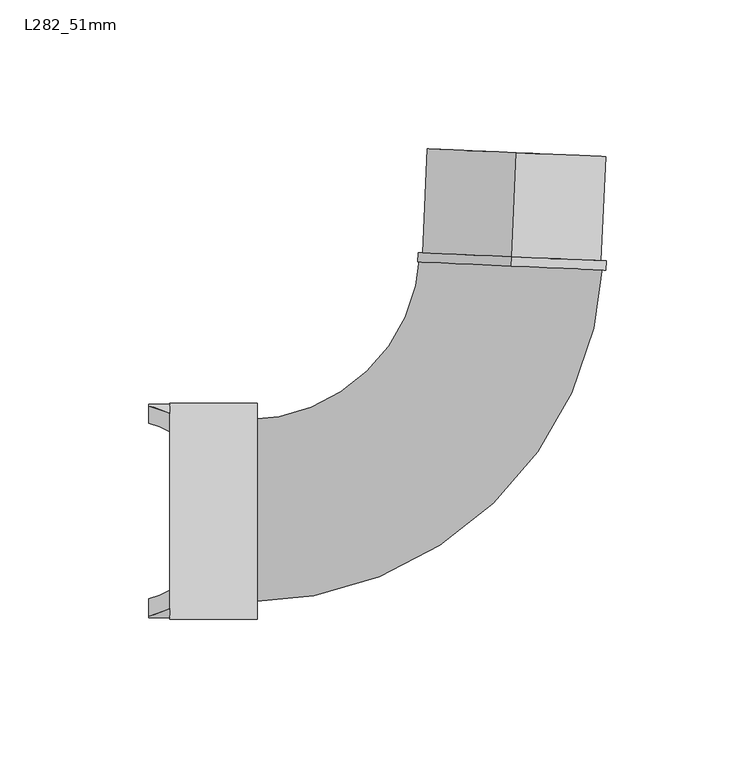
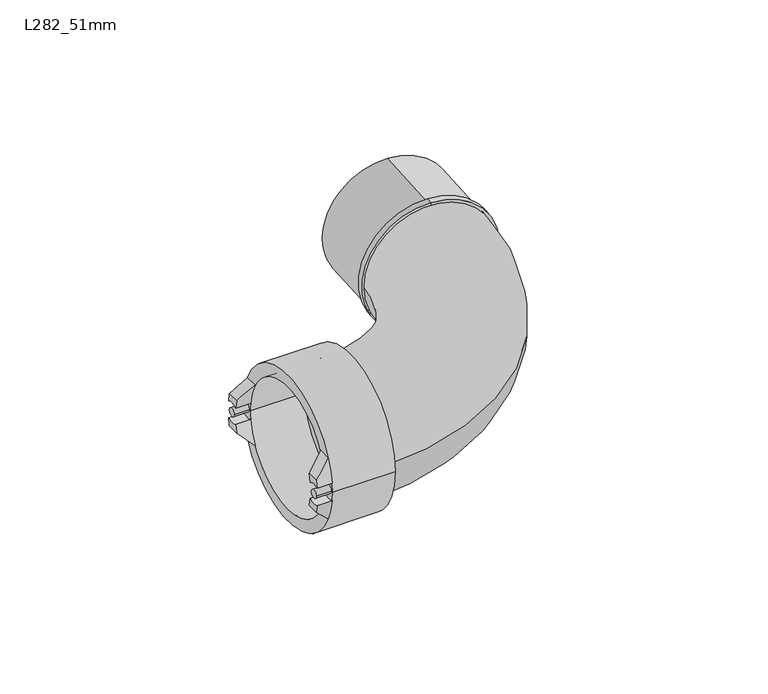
"""IFC4 building model written with IfcOpenShell, lengths in millimetres: pipe fitting geometry, Durapipe_PipeFitting_VulcatheneEnfusion_SingleSocketLongSweepBend_L28 : L282_51mm."""

from ifc_helpers import new_model, si_unit, point, frame, frame_2d, origin, place, context, project, spatial, polyline, circle_curve, ellipse_curve, trimmed, segment, composite_curve, outline, extrude, source, transform, mapped, element, save
from ifc_brep_helpers import plane_surface, cylinder_surface, revolved_surface, advanced_brep


def l282_51mm_e2ee95dc(model_context):
    return source(origin(), model_context, "Body", "SolidModel", [
        advanced_brep(
        [(-118.1861526, 30.2927286, -3.9563988), (-118.1861526, 35.8927286, -4.3051749), (-118.1861526, 35.2672497, -7.94), (-118.1861526, 29.5001508, -7.94), (-111.0861526, 32.8910702, -15.0), (-111.0861526, 35.8927286, -4.3051749), (-111.0861526, 30.2927286, -3.9563988), (-111.0861526, 26.6139531, -15.0)],
        [
            (0, 1, circle_curve(frame((-118.1861526, 33.35, 0.0), z_axis=(1.0, 0.0, 0.0), x_axis=(0.0, -1.0, 0.0)), 5.0)),
            (1, 2, circle_curve(frame((-118.1861526, 0.0, 0.0), z_axis=(-1.0, 0.0, 0.0), x_axis=(0.0, -1.0, 0.0)), 36.15)),
            (2, 3),
            (3, 0, circle_curve(frame((-118.1861526, 0.0, 0.0), z_axis=(1.0, 0.0, 0.0), x_axis=(0.0, -1.0, 0.0)), 30.55)),
            (4, 5, circle_curve(frame((-111.0861526, 0.0, 0.0), z_axis=(1.0, 0.0, 0.0), x_axis=(0.0, -1.0, 0.0)), 36.15)),
            (5, 6, circle_curve(frame((-111.0861526, 33.35, 0.0), z_axis=(-1.0, 0.0, 0.0), x_axis=(0.0, -1.0, 0.0)), 5.0)),
            (6, 7, circle_curve(frame((-111.0861526, 0.0, 0.0), z_axis=(-1.0, 0.0, 0.0), x_axis=(0.0, -1.0, 0.0)), 30.55)),
            (7, 4),
            (6, 0),
            (3, 7, ellipse_curve(frame((-126.1711384, 0.0, 0.0), z_axis=(-0.7051064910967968, 0.0, -0.7091014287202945), x_axis=(0.7091014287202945, 0.0, -0.7051064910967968)), 43.3267888, 30.55)),
            (4, 2, ellipse_curve(frame((-126.1711384, 0.0, 0.0), z_axis=(0.7051064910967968, 0.0, 0.7091014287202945), x_axis=(-0.7091014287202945, 0.0, 0.7051064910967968)), 51.2688515, 36.15)),
            (1, 5),
        ],
        [
            plane_surface(frame((-118.1861526, 32.8910702, -15.0), z_axis=(-1.0, 0.0, 0.0), x_axis=(0.0, -1.0, 0.0))),
            plane_surface(frame((-111.0861526, 32.8910702, -15.0), z_axis=(1.0, 0.0, 0.0), x_axis=(0.0, 1.0, 0.0))),
            revolved_surface(polyline([(-95.44805056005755, -30.55, 0.0), (-156.89422623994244, -30.55, 0.0)]), (-111.0861526, 0.0, 0.0), (1.0, 0.0, 0.0)),
            cylinder_surface(frame((-111.0861526, 0.0, 0.0), z_axis=(-1.0, 0.0, 0.0), x_axis=(0.0, -1.0, 0.0)), 36.15),
            revolved_surface(polyline([(-118.1861526, 28.35, 0.0), (-111.0861526, 28.35, 0.0)]), (-111.0861526, 33.35, 0.0), (-1.0, 0.0, 0.0)),
            plane_surface(frame((-111.0861526, -104.876707, -15.0), z_axis=(-0.7051064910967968, 0.0, -0.7091014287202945), x_axis=(0.0, 1.0, 0.0))),
        ],
        [
            (0, [[1, 2, 3, 4]]),
            (1, [[5, 6, 7, 8]]),
            (2, [[-7, 9, -4, 10]]),
            (3, [[-5, 11, -2, 12]]),
            (4, [[-1, -9, -6, -12]]),
            (5, [[-3, -11, -8, -10]]),
        ],
    ),
        advanced_brep(
        [(-118.1861526, 35.8927286, 4.3051749), (-118.1861526, 30.2927286, 3.9563988), (-118.1861526, 29.5001508, 7.94), (-118.1861526, 35.2672497, 7.94), (-111.0861526, 35.8927286, 4.3051749), (-111.0861526, 32.8910702, 15.0), (-111.0861526, 26.6139531, 15.0), (-111.0861526, 30.2927286, 3.9563988)],
        [
            (0, 1, circle_curve(frame((-118.1861526, 33.35, 0.0), z_axis=(1.0, 0.0, 0.0), x_axis=(0.0, -1.0, 0.0)), 5.0)),
            (1, 2, circle_curve(frame((-118.1861526, 0.0, 0.0), z_axis=(1.0, 0.0, 0.0), x_axis=(0.0, -1.0, 0.0)), 30.55)),
            (2, 3),
            (3, 0, circle_curve(frame((-118.1861526, 0.0, 0.0), z_axis=(-1.0, 0.0, 0.0), x_axis=(0.0, -1.0, 0.0)), 36.15)),
            (4, 5, circle_curve(frame((-111.0861526, 0.0, 0.0), z_axis=(1.0, 0.0, 0.0), x_axis=(0.0, -1.0, 0.0)), 36.15)),
            (5, 6),
            (6, 7, circle_curve(frame((-111.0861526, 0.0, 0.0), z_axis=(-1.0, 0.0, 0.0), x_axis=(0.0, -1.0, 0.0)), 30.55)),
            (7, 4, circle_curve(frame((-111.0861526, 33.35, 0.0), z_axis=(-1.0, 0.0, 0.0), x_axis=(0.0, -1.0, 0.0)), 5.0)),
            (6, 2, ellipse_curve(frame((-126.1711384, 0.0, 0.0), z_axis=(-0.7051064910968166, 0.0, 0.7091014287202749), x_axis=(0.7091014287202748, 0.0, 0.7051064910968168)), 43.3267888, 30.55)),
            (1, 7),
            (4, 0),
            (3, 5, ellipse_curve(frame((-126.1711384, 0.0, 0.0), z_axis=(0.7051064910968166, 0.0, -0.7091014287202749), x_axis=(-0.7091014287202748, 0.0, -0.7051064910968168)), 51.2688515, 36.15)),
        ],
        [
            plane_surface(frame((-118.1861526, 32.8910702, -15.0), z_axis=(-1.0, 0.0, 0.0), x_axis=(0.0, -1.0, 0.0))),
            plane_surface(frame((-111.0861526, 32.8910702, -15.0), z_axis=(1.0, 0.0, 0.0), x_axis=(0.0, 1.0, 0.0))),
            revolved_surface(polyline([(-95.4480505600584, -30.55, 0.0), (-156.8942262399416, -30.55, 0.0)]), (-111.0861526, 0.0, 0.0), (1.0, 0.0, 0.0)),
            cylinder_surface(frame((-111.0861526, 0.0, 0.0), z_axis=(-1.0, 0.0, 0.0), x_axis=(0.0, -1.0, 0.0)), 36.15),
            revolved_surface(polyline([(-118.1861526, 28.35, 0.0), (-111.0861526, 28.35, 0.0)]), (-111.0861526, 33.35, 0.0), (-1.0, 0.0, 0.0)),
            plane_surface(frame((-118.1861526, -104.876707, 7.94), z_axis=(-0.7051064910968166, 0.0, 0.7091014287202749), x_axis=(0.0, 1.0, 0.0))),
        ],
        [
            (0, [[1, 2, 3, 4]]),
            (1, [[5, 6, 7, 8]]),
            (2, [[-7, 9, -2, 10]]),
            (3, [[-5, 11, -4, 12]]),
            (4, [[-1, -11, -8, -10]]),
            (5, [[-3, -9, -6, -12]]),
        ],
    ),
        advanced_brep(
        [(-118.1861526, -35.8927286, -4.3051749), (-118.1861526, -30.2927286, -3.9563988), (-118.1861526, -29.5001508, -7.94), (-118.1861526, -35.2672497, -7.94), (-111.0861526, -35.8927286, -4.3051749), (-111.0861526, -32.8910702, -15.0), (-111.0861526, -26.6139531, -15.0), (-111.0861526, -30.2927286, -3.9563988)],
        [
            (0, 1, circle_curve(frame((-118.1861526, -33.35, 0.0), z_axis=(1.0, 0.0, 0.0), x_axis=(0.0, -1.0, 0.0)), 5.0)),
            (1, 2, circle_curve(frame((-118.1861526, 0.0, 0.0), z_axis=(1.0, 0.0, 0.0), x_axis=(0.0, -1.0, 0.0)), 30.55)),
            (2, 3),
            (3, 0, circle_curve(frame((-118.1861526, 0.0, 0.0), z_axis=(-1.0, 0.0, 0.0), x_axis=(0.0, -1.0, 0.0)), 36.15)),
            (4, 5, circle_curve(frame((-111.0861526, 0.0, 0.0), z_axis=(1.0, 0.0, 0.0), x_axis=(0.0, -1.0, 0.0)), 36.15)),
            (5, 6),
            (6, 7, circle_curve(frame((-111.0861526, 0.0, 0.0), z_axis=(-1.0, 0.0, 0.0), x_axis=(0.0, -1.0, 0.0)), 30.55)),
            (7, 4, circle_curve(frame((-111.0861526, -33.35, 0.0), z_axis=(-1.0, 0.0, 0.0), x_axis=(0.0, -1.0, 0.0)), 5.0)),
            (6, 2, ellipse_curve(frame((-126.1711384, 0.0, 0.0), z_axis=(-0.7051064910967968, 0.0, -0.7091014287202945), x_axis=(0.7091014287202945, 0.0, -0.7051064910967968)), 43.3267888, 30.55)),
            (1, 7),
            (4, 0),
            (3, 5, ellipse_curve(frame((-126.1711384, 0.0, 0.0), z_axis=(0.7051064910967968, 0.0, 0.7091014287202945), x_axis=(-0.7091014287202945, 0.0, 0.7051064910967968)), 51.2688515, 36.15)),
        ],
        [
            plane_surface(frame((-118.1861526, 32.8910702, -15.0), z_axis=(-1.0, 0.0, 0.0), x_axis=(0.0, -1.0, 0.0))),
            plane_surface(frame((-111.0861526, 32.8910702, -15.0), z_axis=(1.0, 0.0, 0.0), x_axis=(0.0, 1.0, 0.0))),
            revolved_surface(polyline([(-95.44805056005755, -30.55, 0.0), (-156.89422623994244, -30.55, 0.0)]), (-111.0861526, 0.0, 0.0), (1.0, 0.0, 0.0)),
            cylinder_surface(frame((-111.0861526, 0.0, 0.0), z_axis=(-1.0, 0.0, 0.0), x_axis=(0.0, -1.0, 0.0)), 36.15),
            revolved_surface(polyline([(-118.1861526, -38.35, 0.0), (-111.0861526, -38.35, 0.0)]), (-111.0861526, -33.35, 0.0), (-1.0, 0.0, 0.0)),
            plane_surface(frame((-111.0861526, -104.876707, -15.0), z_axis=(-0.7051064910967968, 0.0, -0.7091014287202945), x_axis=(0.0, 1.0, 0.0))),
        ],
        [
            (0, [[1, 2, 3, 4]]),
            (1, [[5, 6, 7, 8]]),
            (2, [[-7, 9, -2, 10]]),
            (3, [[-5, 11, -4, 12]]),
            (4, [[-1, -11, -8, -10]]),
            (5, [[-3, -9, -6, -12]]),
        ],
    ),
        advanced_brep(
        [(-118.1861526, -30.2927286, 3.9563988), (-118.1861526, -35.8927286, 4.3051749), (-118.1861526, -35.2672497, 7.94), (-118.1861526, -29.5001508, 7.94), (-111.0861526, -32.8910702, 15.0), (-111.0861526, -35.8927286, 4.3051749), (-111.0861526, -30.2927286, 3.9563988), (-111.0861526, -26.6139531, 15.0)],
        [
            (0, 1, circle_curve(frame((-118.1861526, -33.35, 0.0), z_axis=(1.0, 0.0, 0.0), x_axis=(0.0, -1.0, 0.0)), 5.0)),
            (1, 2, circle_curve(frame((-118.1861526, 0.0, 0.0), z_axis=(-1.0, 0.0, 0.0), x_axis=(0.0, -1.0, 0.0)), 36.15)),
            (2, 3),
            (3, 0, circle_curve(frame((-118.1861526, 0.0, 0.0), z_axis=(1.0, 0.0, 0.0), x_axis=(0.0, -1.0, 0.0)), 30.55)),
            (4, 5, circle_curve(frame((-111.0861526, 0.0, 0.0), z_axis=(1.0, 0.0, 0.0), x_axis=(0.0, -1.0, 0.0)), 36.15)),
            (5, 6, circle_curve(frame((-111.0861526, -33.35, 0.0), z_axis=(-1.0, 0.0, 0.0), x_axis=(0.0, -1.0, 0.0)), 5.0)),
            (6, 7, circle_curve(frame((-111.0861526, 0.0, 0.0), z_axis=(-1.0, 0.0, 0.0), x_axis=(0.0, -1.0, 0.0)), 30.55)),
            (7, 4),
            (6, 0),
            (3, 7, ellipse_curve(frame((-126.1711384, 0.0, 0.0), z_axis=(-0.7051064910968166, 0.0, 0.7091014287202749), x_axis=(0.7091014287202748, 0.0, 0.7051064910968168)), 43.3267888, 30.55)),
            (4, 2, ellipse_curve(frame((-126.1711384, 0.0, 0.0), z_axis=(0.7051064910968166, 0.0, -0.7091014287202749), x_axis=(-0.7091014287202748, 0.0, -0.7051064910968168)), 51.2688515, 36.15)),
            (1, 5),
        ],
        [
            plane_surface(frame((-118.1861526, 32.8910702, -15.0), z_axis=(-1.0, 0.0, 0.0), x_axis=(0.0, -1.0, 0.0))),
            plane_surface(frame((-111.0861526, 32.8910702, -15.0), z_axis=(1.0, 0.0, 0.0), x_axis=(0.0, 1.0, 0.0))),
            revolved_surface(polyline([(-95.4480505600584, -30.55, 0.0), (-156.8942262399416, -30.55, 0.0)]), (-111.0861526, 0.0, 0.0), (1.0, 0.0, 0.0)),
            cylinder_surface(frame((-111.0861526, 0.0, 0.0), z_axis=(-1.0, 0.0, 0.0), x_axis=(0.0, -1.0, 0.0)), 36.15),
            revolved_surface(polyline([(-118.1861526, -38.35, 0.0), (-111.0861526, -38.35, 0.0)]), (-111.0861526, -33.35, 0.0), (-1.0, 0.0, 0.0)),
            plane_surface(frame((-118.1861526, -104.876707, 7.94), z_axis=(-0.7051064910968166, 0.0, 0.7091014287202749), x_axis=(0.0, 1.0, 0.0))),
        ],
        [
            (0, [[1, 2, 3, 4]]),
            (1, [[5, 6, 7, 8]]),
            (2, [[-7, 9, -4, 10]]),
            (3, [[-5, 11, -2, 12]]),
            (4, [[-1, -9, -6, -12]]),
            (5, [[-3, -11, -8, -10]]),
        ],
    ),
        extrude(outline(composite_curve([segment(trimmed(circle_curve(frame_2d((33.35, 0.0)), 2.0), [point((35.35, 0.0))], [point((31.35, 0.0))], False, "CARTESIAN"), True, "CONTINUOUS"), segment(trimmed(circle_curve(frame_2d((33.35, 0.0)), 2.0), [point((31.35, 0.0))], [point((35.35, 0.0))], False, "CARTESIAN"), True, "CONTINUOUS")], self_intersect=False)), frame((-118.1861526, 0.0, 0.0), z_axis=(1.0, 0.0, 0.0), x_axis=(0.0, 1.0, 0.0)), (0.0, 0.0, 1.0), 7.1),
        extrude(outline(composite_curve([segment(trimmed(circle_curve(frame_2d((-33.35, 0.0)), 2.0), [point((-31.35, 0.0))], [point((-35.35, 0.0))], False, "CARTESIAN"), True, "CONTINUOUS"), segment(trimmed(circle_curve(frame_2d((-33.35, 0.0)), 2.0), [point((-35.35, 0.0))], [point((-31.35, 0.0))], False, "CARTESIAN"), True, "CONTINUOUS")], self_intersect=False)), frame((-118.1861526, 0.0, 0.0), z_axis=(1.0, 0.0, 0.0), x_axis=(0.0, 1.0, 0.0)), (0.0, 0.0, 1.0), 7.1),
        advanced_brep(
        [(3.5936335, 82.3077392, -31.7), (3.5936335, 82.3077392, 31.7), (3.5936335, 82.3077392, 26.7), (3.5936335, 82.3077392, -26.7), (3.7288536, 85.4047887, -31.7), (3.7288536, 85.4047887, 31.7), (3.7288536, 85.4047887, -30.0), (3.7288536, 85.4047887, 30.0), (5.2555322, 120.3714765, -30.0), (5.2555322, 120.3714765, 30.0), (5.2555322, 120.3714765, -26.7), (5.2555322, 120.3714765, 26.7)],
        [
            (0, 1, circle_curve(frame((3.5936335, 82.3077392, 0.0), z_axis=(-0.04361938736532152, -0.9990482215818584, 0.0), x_axis=(0.0, 0.0, 1.0)), 31.7)),
            (1, 2),
            (2, 3, circle_curve(frame((3.5936335, 82.3077392, 0.0), z_axis=(0.04361938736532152, 0.9990482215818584, 0.0), x_axis=(0.0, 0.0, 1.0)), 26.7)),
            (3, 0),
            (1, 0, circle_curve(frame((3.5936335, 82.3077392, 0.0), z_axis=(-0.04361938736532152, -0.9990482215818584, 0.0), x_axis=(0.0, 0.0, 1.0)), 31.7)),
            (3, 2, circle_curve(frame((3.5936335, 82.3077392, 0.0), z_axis=(0.04361938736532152, 0.9990482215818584, 0.0), x_axis=(0.0, 0.0, 1.0)), 26.7)),
            (4, 5, circle_curve(frame((3.7288536, 85.4047887, 0.0), z_axis=(-0.04361938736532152, -0.9990482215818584, 0.0), x_axis=(0.0, 0.0, 1.0)), 31.7)),
            (5, 1),
            (0, 4),
            (5, 4, circle_curve(frame((3.7288536, 85.4047887, 0.0), z_axis=(-0.04361938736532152, -0.9990482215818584, 0.0), x_axis=(0.0, 0.0, 1.0)), 31.7)),
            (6, 7, circle_curve(frame((3.7288536, 85.4047887, 0.0), z_axis=(-0.04361938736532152, -0.9990482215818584, 0.0), x_axis=(0.0, 0.0, 1.0)), 30.0)),
            (7, 5),
            (4, 6),
            (7, 6, circle_curve(frame((3.7288536, 85.4047887, 0.0), z_axis=(-0.04361938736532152, -0.9990482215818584, 0.0), x_axis=(0.0, 0.0, 1.0)), 30.0)),
            (8, 9, circle_curve(frame((5.2555322, 120.3714765, 0.0), z_axis=(-0.04361938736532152, -0.9990482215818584, 0.0), x_axis=(0.0, 0.0, 1.0)), 30.0)),
            (9, 7),
            (6, 8),
            (9, 8, circle_curve(frame((5.2555322, 120.3714765, 0.0), z_axis=(-0.04361938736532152, -0.9990482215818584, 0.0), x_axis=(0.0, 0.0, 1.0)), 30.0)),
            (10, 11, circle_curve(frame((5.2555322, 120.3714765, 0.0), z_axis=(-0.04361938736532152, -0.9990482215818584, 0.0), x_axis=(0.0, 0.0, 1.0)), 26.7)),
            (11, 9),
            (8, 10),
            (11, 10, circle_curve(frame((5.2555322, 120.3714765, 0.0), z_axis=(-0.04361938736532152, -0.9990482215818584, 0.0), x_axis=(0.0, 0.0, 1.0)), 26.7)),
            (2, 11),
            (10, 3),
        ],
        [
            plane_surface(frame((3.5936335, 82.3077392, 0.0), z_axis=(-0.04361938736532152, -0.9990482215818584, 0.0), x_axis=(0.0, 0.0, 1.0))),
            cylinder_surface(frame((116.4438849, 2667.0034392, 0.0), z_axis=(0.04361938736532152, 0.9990482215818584, 0.0), x_axis=(0.0, 0.0, 1.0)), 31.7),
            plane_surface(frame((3.7288536, 85.4047887, 0.0), z_axis=(0.04361938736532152, 0.9990482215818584, 0.0), x_axis=(0.0, 0.0, 1.0))),
            cylinder_surface(frame((116.4438849, 2667.0034392, 0.0), z_axis=(0.04361938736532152, 0.9990482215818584, 0.0), x_axis=(0.0, 0.0, 1.0)), 30.0),
            plane_surface(frame((5.2555322, 120.3714765, 0.0), z_axis=(0.04361938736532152, 0.9990482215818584, 0.0), x_axis=(0.0, 0.0, 1.0))),
            revolved_surface(polyline([(5.255532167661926, 120.37147650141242, 26.7), (3.59363350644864, 82.30773919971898, 26.7)]), (116.4438849, 2667.0034392, 0.0), (0.04361938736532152, 0.9990482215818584, 0.0)),
        ],
        [
            (0, [[1, 2, 3, 4]]),
            (0, [[5, -4, 6, -2]]),
            (1, [[7, 8, -1, 9]]),
            (1, [[10, -9, -5, -8]]),
            (2, [[11, 12, -7, 13]]),
            (2, [[14, -13, -10, -12]]),
            (3, [[15, 16, -11, 17]]),
            (3, [[18, -17, -14, -16]]),
            (4, [[19, 20, -15, 21]]),
            (4, [[22, -21, -18, -20]]),
            (5, [[-3, 23, -19, 24]]),
            (5, [[-6, -24, -22, -23]]),
        ],
    ),
        advanced_brep(
        [(-81.6861526, 36.3, 0.0), (-81.6861526, -36.3, 0.0), (-111.0861526, -36.3, 0.0), (-111.0861526, 36.3, 0.0), (-81.6861526, 26.7, 0.0), (-81.6861526, -26.7, 0.0), (-85.4861526, 26.7, 0.0), (-85.4861526, -26.7, 0.0), (-85.4861526, 30.4, 0.0), (-85.4861526, -30.4, 0.0), (-111.0861526, 30.4, 0.0), (-111.0861526, -30.4, 0.0)],
        [
            (0, 1, circle_curve(frame((-81.6861526, 0.0, 0.0), z_axis=(-1.0, 0.0, 0.0), x_axis=(0.0, -1.0, 0.0)), 36.3)),
            (1, 2),
            (2, 3, circle_curve(frame((-111.0861526, 0.0, 0.0), z_axis=(1.0, 0.0, 0.0), x_axis=(0.0, -1.0, 0.0)), 36.3)),
            (3, 0),
            (1, 0, circle_curve(frame((-81.6861526, 0.0, 0.0), z_axis=(-1.0, 0.0, 0.0), x_axis=(0.0, -1.0, 0.0)), 36.3)),
            (3, 2, circle_curve(frame((-111.0861526, 0.0, 0.0), z_axis=(1.0, 0.0, 0.0), x_axis=(0.0, -1.0, 0.0)), 36.3)),
            (4, 5, circle_curve(frame((-81.6861526, 0.0, 0.0), z_axis=(-1.0, 0.0, 0.0), x_axis=(0.0, -1.0, 0.0)), 26.7)),
            (5, 1),
            (0, 4),
            (5, 4, circle_curve(frame((-81.6861526, 0.0, 0.0), z_axis=(-1.0, 0.0, 0.0), x_axis=(0.0, -1.0, 0.0)), 26.7)),
            (6, 7, circle_curve(frame((-85.4861526, 0.0, 0.0), z_axis=(-1.0, 0.0, 0.0), x_axis=(0.0, -1.0, 0.0)), 26.7)),
            (7, 5),
            (4, 6),
            (7, 6, circle_curve(frame((-85.4861526, 0.0, 0.0), z_axis=(-1.0, 0.0, 0.0), x_axis=(0.0, -1.0, 0.0)), 26.7)),
            (8, 9, circle_curve(frame((-85.4861526, 0.0, 0.0), z_axis=(-1.0, 0.0, 0.0), x_axis=(0.0, -1.0, 0.0)), 30.4)),
            (9, 7),
            (6, 8),
            (9, 8, circle_curve(frame((-85.4861526, 0.0, 0.0), z_axis=(-1.0, 0.0, 0.0), x_axis=(0.0, -1.0, 0.0)), 30.4)),
            (10, 11, circle_curve(frame((-111.0861526, 0.0, 0.0), z_axis=(-1.0, 0.0, 0.0), x_axis=(0.0, -1.0, 0.0)), 30.4)),
            (11, 9),
            (8, 10),
            (11, 10, circle_curve(frame((-111.0861526, 0.0, 0.0), z_axis=(-1.0, 0.0, 0.0), x_axis=(0.0, -1.0, 0.0)), 30.4)),
            (2, 11),
            (10, 3),
        ],
        [
            cylinder_surface(frame((1571.2518184, 0.0, 0.0), z_axis=(1.0, 0.0, 0.0), x_axis=(0.0, -1.0, 0.0)), 36.3),
            plane_surface(frame((-81.6861526, 0.0, 0.0), z_axis=(1.0, 0.0, 0.0), x_axis=(0.0, -1.0, 0.0))),
            revolved_surface(polyline([(-81.68615260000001, -26.7, 0.0), (-85.48615259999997, -26.7, 0.0)]), (1571.2518184, 0.0, 0.0), (1.0, 0.0, 0.0)),
            plane_surface(frame((-85.4861526, 0.0, 0.0), z_axis=(-1.0, 0.0, 0.0), x_axis=(0.0, -1.0, 0.0))),
            revolved_surface(polyline([(-85.48615259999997, -30.4, 0.0), (-111.0861526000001, -30.4, 0.0)]), (1571.2518184, 0.0, 0.0), (1.0, 0.0, 0.0)),
            plane_surface(frame((-111.0861526, 0.0, 0.0), z_axis=(-1.0, 0.0, 0.0), x_axis=(0.0, -1.0, 0.0))),
        ],
        [
            (0, [[1, 2, 3, 4]]),
            (0, [[5, -4, 6, -2]]),
            (1, [[7, 8, -1, 9]]),
            (1, [[10, -9, -5, -8]]),
            (2, [[11, 12, -7, 13]]),
            (2, [[14, -13, -10, -12]]),
            (3, [[15, 16, -11, 17]]),
            (3, [[18, -17, -14, -16]]),
            (4, [[19, 20, -15, 21]]),
            (4, [[22, -21, -18, -20]]),
            (5, [[-3, 23, -19, 24]]),
            (5, [[-6, -24, -22, -23]]),
        ],
    ),
        advanced_brep(
        [(-85.4861526, -30.7, 0.0), (-85.4861526, 30.7, 0.0), (-85.4861526, -26.7, 0.0), (-85.4861526, 26.7, 0.0), (34.399634, 84.0656735, 0.0), (-26.9419268, 86.7439039, 0.0), (30.4034411, 84.2401511, 0.0), (-22.9457339, 86.5694264, 0.0)],
        [
            (0, 1, circle_curve(frame((-85.4861526, 0.0, 0.0), z_axis=(-1.0, 0.0, 0.0), x_axis=(0.0, 1.0, 0.0)), 30.7)),
            (1, 0, circle_curve(frame((-85.4861526, 0.0, 0.0), z_axis=(-1.0, 0.0, 0.0), x_axis=(0.0, 1.0, 0.0)), 30.7)),
            (2, 3, circle_curve(frame((-85.4861526, 0.0, 0.0), z_axis=(1.0, 0.0, 0.0), x_axis=(0.0, 1.0, 0.0)), 26.7)),
            (3, 2, circle_curve(frame((-85.4861526, 0.0, 0.0), z_axis=(1.0, 0.0, 0.0), x_axis=(0.0, 1.0, 0.0)), 26.7)),
            (4, 5, circle_curve(frame((3.7288536, 85.4047887, 0.0), z_axis=(0.043619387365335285, 0.9990482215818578, 0.0), x_axis=(-0.9990482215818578, 0.043619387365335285, 0.0)), 30.7)),
            (5, 4, circle_curve(frame((3.7288536, 85.4047887, 0.0), z_axis=(0.043619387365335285, 0.9990482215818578, 0.0), x_axis=(-0.9990482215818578, 0.043619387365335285, 0.0)), 30.7)),
            (6, 7, circle_curve(frame((3.7288536, 85.4047887, 0.0), z_axis=(-0.043619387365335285, -0.9990482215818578, 0.0), x_axis=(-0.9990482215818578, 0.043619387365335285, 0.0)), 26.7)),
            (7, 6, circle_curve(frame((3.7288536, 85.4047887, 0.0), z_axis=(-0.043619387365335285, -0.9990482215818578, 0.0), x_axis=(-0.9990482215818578, 0.043619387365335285, 0.0)), 26.7)),
            (7, 3, circle_curve(frame((-85.4861526, 89.3, 0.0), z_axis=(0.0, 0.0, -1.0), x_axis=(0.0, -1.0, 0.0)), 62.6)),
            (2, 6, circle_curve(frame((-85.4861526, 89.3, 0.0), z_axis=(0.0, 0.0, 1.0), x_axis=(0.0, -1.0, 0.0)), 116.0)),
            (5, 1, circle_curve(frame((-85.4861526, 89.3, 0.0), z_axis=(0.0, 0.0, -1.0), x_axis=(0.0, -1.0, 0.0)), 58.6)),
            (0, 4, circle_curve(frame((-85.4861526, 89.3, 0.0), z_axis=(0.0, 0.0, 1.0), x_axis=(0.0, -1.0, 0.0)), 120.0)),
        ],
        [
            plane_surface(frame((-85.4861526, 0.0, 0.0), z_axis=(-1.0, 0.0, 0.0), x_axis=(0.0, 0.0, 1.0))),
            plane_surface(frame((3.7288536, 85.4047887, 0.0), z_axis=(0.043619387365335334, 0.9990482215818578, 0.0), x_axis=(0.0, 0.0, 1.0))),
            revolved_surface(trimmed(ellipse_curve(frame((-85.4861526, 0.0, 0.0), z_axis=(1.0, 0.0, 0.0), x_axis=(0.0, 1.0, 0.0)), 26.7, 26.7), [point((-85.4861526, -26.7, 0.0))], [point((-85.4861526, 26.7, 0.0))], True, "CARTESIAN"), (-85.4861526, 89.3, 0.0), (0.0, 0.0, 1.0)),
            revolved_surface(trimmed(ellipse_curve(frame((-85.4861526, 0.0, 0.0), z_axis=(1.0, 0.0, 0.0), x_axis=(0.0, 1.0, 0.0)), 26.7, 26.7), [point((-85.4861526, 26.7, 0.0))], [point((-85.4861526, -26.7, 0.0))], True, "CARTESIAN"), (-85.4861526, 89.3, 0.0), (0.0, 0.0, 1.0)),
            revolved_surface(trimmed(ellipse_curve(frame((-85.4861526, 0.0, 0.0), z_axis=(-1.0, 0.0, 0.0), x_axis=(0.0, 1.0, 0.0)), 30.7, 30.7), [point((-85.4861526, -30.7, 0.0))], [point((-85.4861526, 30.7, 0.0))], True, "CARTESIAN"), (-85.4861526, 89.3, 0.0), (0.0, 0.0, 1.0)),
            revolved_surface(trimmed(ellipse_curve(frame((-85.4861526, 0.0, 0.0), z_axis=(-1.0, 0.0, 0.0), x_axis=(0.0, 1.0, 0.0)), 30.7, 30.7), [point((-85.4861526, 30.7, 0.0))], [point((-85.4861526, -30.7, 0.0))], True, "CARTESIAN"), (-85.4861526, 89.3, 0.0), (0.0, 0.0, 1.0)),
        ],
        [
            (0, [[1, 2], [3, 4]]),
            (1, [[5, 6], [7, 8]]),
            (2, [[9, -3, 10, -8]]),
            (3, [[-10, -4, -9, -7]]),
            (4, [[11, -1, 12, -6]]),
            (5, [[-12, -2, -11, -5]]),
        ],
    ),
    ])


if __name__ == "__main__":
    model = new_model("IFC4")
    model_context = context("Model", 3, world=origin())
    ifc_project = project(units=[si_unit("LENGTHUNIT", "METRE", prefix="MILLI")], contexts=[model_context])
    site = spatial("IfcSite", under=ifc_project)
    building = spatial("IfcBuilding", under=site)
    placement = place(None, origin())
    l282_51mm_shape = l282_51mm_e2ee95dc(model_context)
    element("IfcPipeFitting", 1, ObjectType="Durapipe_PipeFitting_VulcatheneEnfusion_SingleSocketLongSweepBend_L28 : L282_51mm", at=placement, inside=building, context=model_context, shape_type="MappedRepresentation", body=[
        mapped(l282_51mm_shape, transform((0.0, 0.0, 0.0), x_axis=(1.0, 0.0, 0.0), y_axis=(0.0, 1.0, 0.0), z_axis=(0.0, 0.0, 1.0))),
    ])
    save(model, "model.ifc")
